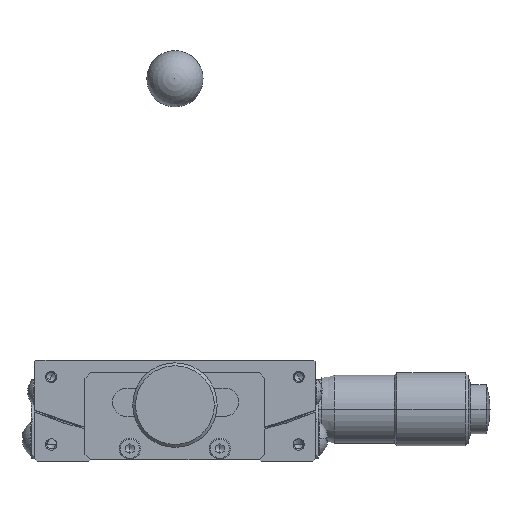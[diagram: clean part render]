
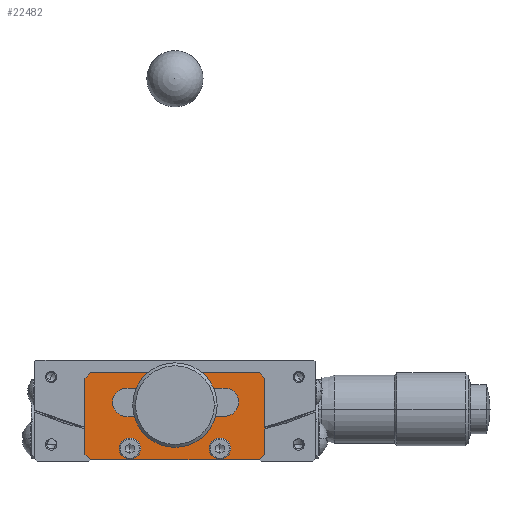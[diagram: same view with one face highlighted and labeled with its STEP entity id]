
A CAD part, front view. The second image highlights one B-rep face of the part: STEP entity #22482.
In plain terms, the highlighted planar face has unit normal (0, -1, 0).
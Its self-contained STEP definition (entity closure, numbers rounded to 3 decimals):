
#1667 = DIRECTION ( 'NONE',  ( 1., 0., 0. ) ) ;
#1668 = DIRECTION ( 'NONE',  ( 0., 1., 0. ) ) ;
#1669 = CARTESIAN_POINT ( 'NONE',  ( -8., -26.5, 2.25 ) ) ;
#1670 = AXIS2_PLACEMENT_3D ( 'NONE', #1669, #1668, #1667 ) ;
#1671 = CIRCLE ( 'NONE', #1670, 1.7 ) ;
#2211 = DIRECTION ( 'NONE',  ( 1., 0., 0. ) ) ;
#2212 = DIRECTION ( 'NONE',  ( 0., 1., 0. ) ) ;
#2213 = CARTESIAN_POINT ( 'NONE',  ( 8., -26.5, 2.25 ) ) ;
#2214 = AXIS2_PLACEMENT_3D ( 'NONE', #2213, #2212, #2211 ) ;
#2215 = CIRCLE ( 'NONE', #2214, 1.7 ) ;
#2797 = CARTESIAN_POINT ( 'NONE',  ( -16., -26.5, 14.75 ) ) ;
#2802 = DIRECTION ( 'NONE',  ( 0., 0., 1. ) ) ;
#2803 = VECTOR ( 'NONE', #2802, 1000. ) ;
#2804 = CARTESIAN_POINT ( 'NONE',  ( -16., -26.5, 1.25 ) ) ;
#2805 = LINE ( 'NONE', #2804, #2803 ) ;
#2813 = VECTOR ( 'NONE', #2878, 1000. ) ;
#2814 = CARTESIAN_POINT ( 'NONE',  ( -15., -26.5, 0.25 ) ) ;
#2815 = LINE ( 'NONE', #2814, #2813 ) ;
#2816 = CARTESIAN_POINT ( 'NONE',  ( -15., -26.5, 0.25 ) ) ;
#2846 = DIRECTION ( 'NONE',  ( 0., 1., 0. ) ) ;
#2864 = CARTESIAN_POINT ( 'NONE',  ( -15., -26.5, 15.75 ) ) ;
#2865 = DIRECTION ( 'NONE',  ( 0.707, 0., 0.707 ) ) ;
#2866 = VECTOR ( 'NONE', #2865, 1000. ) ;
#2867 = CARTESIAN_POINT ( 'NONE',  ( -16., -26.5, 14.75 ) ) ;
#2868 = LINE ( 'NONE', #2867, #2866 ) ;
#2877 = CARTESIAN_POINT ( 'NONE',  ( -16., -26.5, 1.25 ) ) ;
#2878 = DIRECTION ( 'NONE',  ( -0.707, 0., 0.707 ) ) ;
#2900 = CARTESIAN_POINT ( 'NONE',  ( 15., -26.5, 15.75 ) ) ;
#2902 = DIRECTION ( 'NONE',  ( 1., 0., 0. ) ) ;
#2903 = VECTOR ( 'NONE', #2902, 1000. ) ;
#2904 = CARTESIAN_POINT ( 'NONE',  ( -15., -26.5, 15.75 ) ) ;
#2905 = LINE ( 'NONE', #2904, #2903 ) ;
#2934 = CARTESIAN_POINT ( 'NONE',  ( 15., -26.5, 0.25 ) ) ;
#2940 = DIRECTION ( 'NONE',  ( -0.707, 0., -0.707 ) ) ;
#2941 = VECTOR ( 'NONE', #2940, 1000. ) ;
#2942 = CARTESIAN_POINT ( 'NONE',  ( 16., -26.5, 1.25 ) ) ;
#2943 = LINE ( 'NONE', #2942, #2941 ) ;
#2970 = CARTESIAN_POINT ( 'NONE',  ( 16., -26.5, 14.75 ) ) ;
#2971 = DIRECTION ( 'NONE',  ( 0.707, 0., -0.707 ) ) ;
#2972 = VECTOR ( 'NONE', #2971, 1000. ) ;
#2973 = CARTESIAN_POINT ( 'NONE',  ( 15., -26.5, 15.75 ) ) ;
#2974 = LINE ( 'NONE', #2973, #2972 ) ;
#2979 = DIRECTION ( 'NONE',  ( 0., 0., -1. ) ) ;
#2980 = VECTOR ( 'NONE', #2979, 1000. ) ;
#2981 = CARTESIAN_POINT ( 'NONE',  ( 16., -26.5, 14.75 ) ) ;
#2982 = LINE ( 'NONE', #2981, #2980 ) ;
#2983 = DIRECTION ( 'NONE',  ( -1., 0., 0. ) ) ;
#2984 = DIRECTION ( 'NONE',  ( 0., 1., 0. ) ) ;
#2985 = CARTESIAN_POINT ( 'NONE',  ( -22.75, -26.5, 8. ) ) ;
#2986 = AXIS2_PLACEMENT_3D ( 'NONE', #2985, #2984, #2983 ) ;
#2987 = PLANE ( 'NONE',  #2986 ) ;
#2988 = FACE_OUTER_BOUND ( 'NONE', #22578, .T. ) ;
#2989 = FACE_BOUND ( 'NONE', #22522, .T. ) ;
#2990 = FACE_BOUND ( 'NONE', #22517, .T. ) ;
#2991 = FACE_BOUND ( 'NONE', #22484, .T. ) ;
#2997 = DIRECTION ( 'NONE',  ( -1., 0., 0. ) ) ;
#2998 = VECTOR ( 'NONE', #2997, 1000. ) ;
#2999 = CARTESIAN_POINT ( 'NONE',  ( 15., -26.5, 0.25 ) ) ;
#3000 = LINE ( 'NONE', #2999, #2998 ) ;
#3045 = CARTESIAN_POINT ( 'NONE',  ( 16., -26.5, 1.25 ) ) ;
#3049 = DIRECTION ( 'NONE',  ( -1., 0., 0. ) ) ;
#3050 = DIRECTION ( 'NONE',  ( 0., 1., 0. ) ) ;
#3051 = CARTESIAN_POINT ( 'NONE',  ( 0., -26.5, 86. ) ) ;
#3052 = AXIS2_PLACEMENT_3D ( 'NONE', #3051, #3050, #3049 ) ;
#3053 = CIRCLE ( 'NONE', #3052, 78.5 ) ;
#3055 = CARTESIAN_POINT ( 'NONE',  ( 9.128, -26.5, 8.032 ) ) ;
#3056 = CARTESIAN_POINT ( 'NONE',  ( 8.546, -26.5, 12.999 ) ) ;
#3057 = DIRECTION ( 'NONE',  ( -1., 0., 0. ) ) ;
#3058 = DIRECTION ( 'NONE',  ( 0., 1., 0. ) ) ;
#3059 = CARTESIAN_POINT ( 'NONE',  ( 8.837, -26.5, 10.516 ) ) ;
#3060 = AXIS2_PLACEMENT_3D ( 'NONE', #3059, #3058, #3057 ) ;
#3065 = CIRCLE ( 'NONE', #3060, 2.5 ) ;
#3109 = CARTESIAN_POINT ( 'NONE',  ( -8.886, -26.5, 8.005 ) ) ;
#3110 = AXIS2_PLACEMENT_3D ( 'NONE', #3117, #2846, #3172 ) ;
#3111 = CIRCLE ( 'NONE', #3110, 2.5 ) ;
#3117 = CARTESIAN_POINT ( 'NONE',  ( -8.603, -26.5, 10.489 ) ) ;
#3161 = DIRECTION ( 'NONE',  ( 1., 0., 0. ) ) ;
#3162 = DIRECTION ( 'NONE',  ( 0., -1., 0. ) ) ;
#3163 = AXIS2_PLACEMENT_3D ( 'NONE', #3169, #3162, #3161 ) ;
#3164 = CIRCLE ( 'NONE', #3163, 73.5 ) ;
#3169 = CARTESIAN_POINT ( 'NONE',  ( 0., -26.5, 86. ) ) ;
#3172 = DIRECTION ( 'NONE',  ( -1., 0., 0. ) ) ;
#21721 = EDGE_CURVE ( 'NONE', #44284, #44283, #1671, .T. ) ;
#21998 = EDGE_CURVE ( 'NONE', #44266, #44265, #2215, .T. ) ;
#22346 = EDGE_CURVE ( 'NONE', #22380, #22348, #2805, .T. ) ;
#22348 = VERTEX_POINT ( 'NONE', #2797 ) ;
#22375 = VERTEX_POINT ( 'NONE', #2816 ) ;
#22379 = EDGE_CURVE ( 'NONE', #22375, #22380, #2815, .T. ) ;
#22380 = VERTEX_POINT ( 'NONE', #2877 ) ;
#22390 = EDGE_CURVE ( 'NONE', #22348, #22391, #2868, .T. ) ;
#22391 = VERTEX_POINT ( 'NONE', #2864 ) ;
#22408 = EDGE_CURVE ( 'NONE', #22391, #22410, #2905, .T. ) ;
#22410 = VERTEX_POINT ( 'NONE', #2900 ) ;
#22429 = EDGE_CURVE ( 'NONE', #22491, #22431, #2943, .T. ) ;
#22431 = VERTEX_POINT ( 'NONE', #2934 ) ;
#22448 = EDGE_CURVE ( 'NONE', #22410, #22449, #2974, .T. ) ;
#22449 = VERTEX_POINT ( 'NONE', #2970 ) ;
#22472 = EDGE_CURVE ( 'NONE', #22431, #22375, #3000, .T. ) ;
#22482 = ADVANCED_FACE ( 'NONE', ( #2991, #2990, #2989, #2988 ), #2987, .F. ) ;
#22484 = EDGE_LOOP ( 'NONE', ( #22513, #22515 ) ) ;
#22489 = EDGE_CURVE ( 'NONE', #22449, #22491, #2982, .T. ) ;
#22491 = VERTEX_POINT ( 'NONE', #3045 ) ;
#22502 = ORIENTED_EDGE ( 'NONE', *, *, #22472, .F. ) ;
#22505 = ORIENTED_EDGE ( 'NONE', *, *, #22429, .F. ) ;
#22507 = ORIENTED_EDGE ( 'NONE', *, *, #22489, .F. ) ;
#22509 = ORIENTED_EDGE ( 'NONE', *, *, #22448, .F. ) ;
#22511 = ORIENTED_EDGE ( 'NONE', *, *, #22408, .F. ) ;
#22513 = ORIENTED_EDGE ( 'NONE', *, *, #21721, .T. ) ;
#22515 = ORIENTED_EDGE ( 'NONE', *, *, #44282, .T. ) ;
#22517 = EDGE_LOOP ( 'NONE', ( #22519, #22521 ) ) ;
#22519 = ORIENTED_EDGE ( 'NONE', *, *, #21998, .T. ) ;
#22521 = ORIENTED_EDGE ( 'NONE', *, *, #44264, .T. ) ;
#22522 = EDGE_LOOP ( 'NONE', ( #22524, #22531, #22537, #22573, #22575 ) ) ;
#22524 = ORIENTED_EDGE ( 'NONE', *, *, #22527, .T. ) ;
#22527 = EDGE_CURVE ( 'NONE', #22528, #22529, #3065, .T. ) ;
#22528 = VERTEX_POINT ( 'NONE', #3056 ) ;
#22529 = VERTEX_POINT ( 'NONE', #3055 ) ;
#22531 = ORIENTED_EDGE ( 'NONE', *, *, #22533, .T. ) ;
#22533 = EDGE_CURVE ( 'NONE', #22529, #22535, #3053, .T. ) ;
#22535 = VERTEX_POINT ( 'NONE', #3109 ) ;
#22537 = ORIENTED_EDGE ( 'NONE', *, *, #22569, .T. ) ;
#22544 = ORIENTED_EDGE ( 'NONE', *, *, #22390, .F. ) ;
#22546 = ORIENTED_EDGE ( 'NONE', *, *, #22346, .F. ) ;
#22569 = EDGE_CURVE ( 'NONE', #22535, #44173, #3111, .T. ) ;
#22573 = ORIENTED_EDGE ( 'NONE', *, *, #44172, .T. ) ;
#22575 = ORIENTED_EDGE ( 'NONE', *, *, #22576, .T. ) ;
#22576 = EDGE_CURVE ( 'NONE', #44174, #22528, #3164, .T. ) ;
#22578 = EDGE_LOOP ( 'NONE', ( #22580, #22502, #22505, #22507, #22509, #22511, #22544, #22546 ) ) ;
#22580 = ORIENTED_EDGE ( 'NONE', *, *, #22379, .F. ) ;
#31430 = CARTESIAN_POINT ( 'NONE',  ( -8.32, -26.5, 12.972 ) ) ;
#31431 = CARTESIAN_POINT ( 'NONE',  ( -11.103, -26.5, 10.489 ) ) ;
#31432 = DIRECTION ( 'NONE',  ( -1., 0., 0. ) ) ;
#31433 = DIRECTION ( 'NONE',  ( 0., 1., 0. ) ) ;
#31434 = CARTESIAN_POINT ( 'NONE',  ( -8.603, -26.5, 10.489 ) ) ;
#31435 = AXIS2_PLACEMENT_3D ( 'NONE', #31434, #31433, #31432 ) ;
#31436 = CIRCLE ( 'NONE', #31435, 2.5 ) ;
#31627 = CARTESIAN_POINT ( 'NONE',  ( 6.3, -26.5, 2.25 ) ) ;
#31628 = CARTESIAN_POINT ( 'NONE',  ( 9.7, -26.5, 2.25 ) ) ;
#31629 = DIRECTION ( 'NONE',  ( 1., 0., 0. ) ) ;
#31630 = DIRECTION ( 'NONE',  ( 0., 1., 0. ) ) ;
#31631 = AXIS2_PLACEMENT_3D ( 'NONE', #31637, #31630, #31629 ) ;
#31632 = CIRCLE ( 'NONE', #31631, 1.7 ) ;
#31637 = CARTESIAN_POINT ( 'NONE',  ( 8., -26.5, 2.25 ) ) ;
#31657 = CARTESIAN_POINT ( 'NONE',  ( -9.7, -26.5, 2.25 ) ) ;
#31658 = CARTESIAN_POINT ( 'NONE',  ( -6.3, -26.5, 2.25 ) ) ;
#31659 = DIRECTION ( 'NONE',  ( 1., 0., 0. ) ) ;
#31660 = DIRECTION ( 'NONE',  ( 0., 1., 0. ) ) ;
#31661 = CARTESIAN_POINT ( 'NONE',  ( -8., -26.5, 2.25 ) ) ;
#31662 = AXIS2_PLACEMENT_3D ( 'NONE', #31661, #31660, #31659 ) ;
#31663 = CIRCLE ( 'NONE', #31662, 1.7 ) ;
#44172 = EDGE_CURVE ( 'NONE', #44173, #44174, #31436, .T. ) ;
#44173 = VERTEX_POINT ( 'NONE', #31431 ) ;
#44174 = VERTEX_POINT ( 'NONE', #31430 ) ;
#44264 = EDGE_CURVE ( 'NONE', #44265, #44266, #31632, .T. ) ;
#44265 = VERTEX_POINT ( 'NONE', #31628 ) ;
#44266 = VERTEX_POINT ( 'NONE', #31627 ) ;
#44282 = EDGE_CURVE ( 'NONE', #44283, #44284, #31663, .T. ) ;
#44283 = VERTEX_POINT ( 'NONE', #31658 ) ;
#44284 = VERTEX_POINT ( 'NONE', #31657 ) ;
